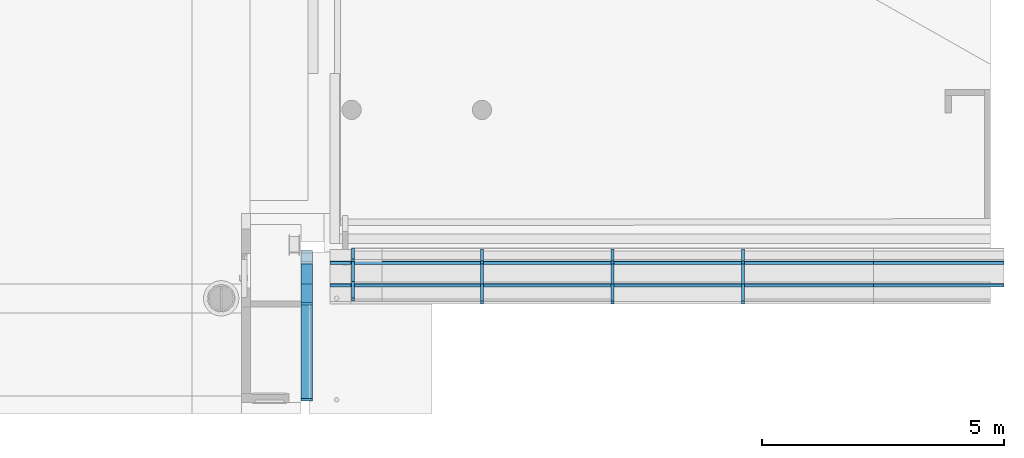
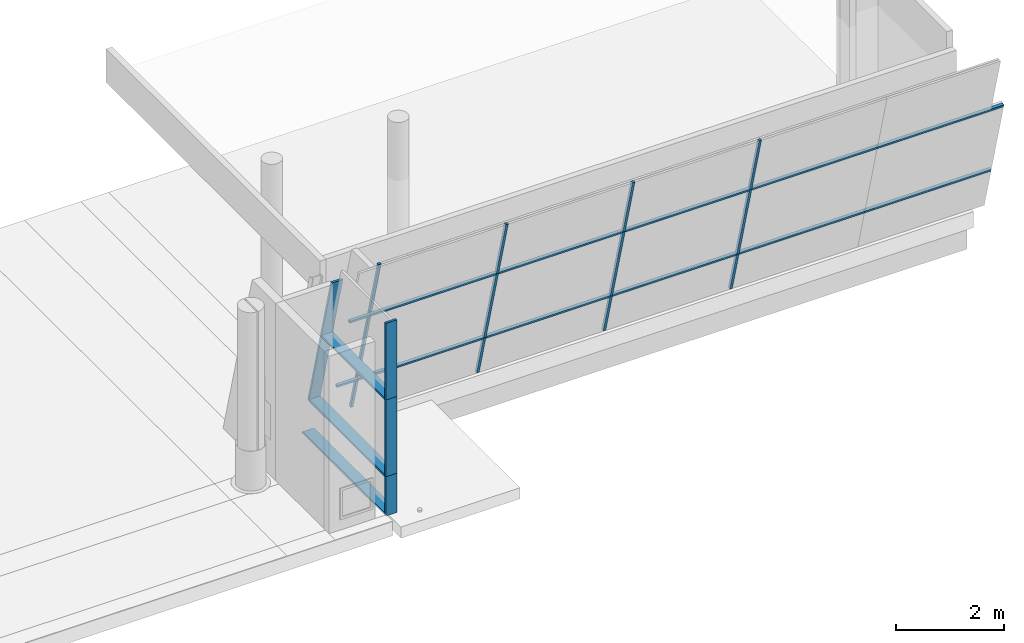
# One storey, part 1 of 10: 32 members, 3 elements without a shape of their own.
"""IFC2X3 building model written with IfcOpenShell, lengths in millimetres."""

from ifc_helpers import new_model, entity, si_unit, converted_unit, derived_unit, direction, frame, frame_2d, origin, origin_with_axes, place, context, subcontext, project, spatial, rectangle, extrude, faceted_brep, source, transform, mapped, material, type_object, element, aggregate, save


model = new_model("IFC2X3")

# Units and contexts
model_context = context("Model", 3, precision=0.01, world=origin(), true_north=direction((6.12303176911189e-17, 1.0)))
plan_context = context("Plan", 3, precision=1e-05, world=origin_with_axes())
body_context = subcontext(model_context, "Body", "Model", "MODEL_VIEW")
ifc_project = project(units=[converted_unit("PLANEANGLEUNIT", "DEGREE", entity("IfcPositiveLengthMeasure", 0.0174532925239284), si_unit("PLANEANGLEUNIT", "RADIAN"), dimensions=[0, 0, 0, 0, 0, 0, 0]), si_unit("AREAUNIT", "SQUARE_METRE"), si_unit("LENGTHUNIT", "METRE", prefix="MILLI"), si_unit("MASSUNIT", "GRAM", prefix="KILO"), si_unit("POWERUNIT", "WATT"), si_unit("PRESSUREUNIT", "PASCAL"), si_unit("FORCEUNIT", "NEWTON", prefix="KILO"), si_unit("ELECTRICVOLTAGEUNIT", "VOLT"), si_unit("ELECTRICCURRENTUNIT", "AMPERE"), si_unit("THERMODYNAMICTEMPERATUREUNIT", "DEGREE_CELSIUS"), si_unit("TIMEUNIT", "SECOND"), si_unit("VOLUMEUNIT", "CUBIC_METRE"), derived_unit("LINEARVELOCITYUNIT", [(si_unit("LENGTHUNIT", "METRE"), 1), (si_unit("TIMEUNIT", "SECOND"), -1)]), derived_unit("VOLUMETRICFLOWRATEUNIT", [(si_unit("VOLUMEUNIT", "CUBIC_METRE"), 1), (si_unit("TIMEUNIT", "SECOND"), -1)]), derived_unit("THERMALTRANSMITTANCEUNIT", [(si_unit("POWERUNIT", "WATT"), 1), (si_unit("THERMODYNAMICTEMPERATUREUNIT", "KELVIN"), -1), (si_unit("AREAUNIT", "SQUARE_METRE"), -1)]), derived_unit("SOUNDPRESSUREUNIT", [(si_unit("PRESSUREUNIT", "PASCAL"), 1)])], contexts=[model_context, plan_context])

# Site, building, storey
site_placement = place(None, frame((2314154.5009392, 1029894.10887124, 0.0), z_axis=(0.0, 0.0, 1.0), x_axis=(1.0, 0.0, 0.0)))
site = spatial("IfcSite", under=ifc_project, at=site_placement, Name="Default", CompositionType="ELEMENT")
building_placement = place(site_placement, origin_with_axes())
building = spatial("IfcBuilding", under=site, at=building_placement, CompositionType="ELEMENT")
storey_placement = place(building_placement, frame((0.0, 0.0, 9320.0), z_axis=(0.0, 0.0, 1.0), x_axis=(1.0, 0.0, 0.0)))
storey = spatial("IfcBuildingStorey", under=building, at=storey_placement, Name="H01 Hovedetasje", CompositionType="ELEMENT", Elevation=9320.0)

# Curtain wall, members
curtain_wall_type_1 = type_object("IfcCurtainWallType", Name="Curtain System:1500 x 3000", PredefinedType="NOTDEFINED")
curtain_wall_1_placement = place(storey_placement, frame((0.0, 0.0, -9320.0), z_axis=(0.0, 0.0, 1.0), x_axis=(1.0, 0.0, 0.0)))
curtain_wall_1 = element("IfcCurtainWall", 1, at=curtain_wall_1_placement, inside=storey, type_object=curtain_wall_type_1, Name="Curtain System:1500 x 3000", ObjectType="Curtain System:1500 x 3000")
ifc_material = material(Name="T2_Metal_Aluminium")
member_type_1 = type_object("IfcMemberType", Name="Rectangular Mullion:Værnes 50 x 56", PredefinedType="MULLION", material=ifc_material)
shared_shape_1 = source(origin(), body_context, "Body", "SweptSolid", [
    extrude(rectangle(XDim=59.9999999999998, YDim=55.9999999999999, at=frame_2d((8.70414851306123e-14, -5.15143483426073e-14), x_axis=(1.0, 0.0))), frame((0.0, 0.0, -2644.0), z_axis=(0.0, 0.0, 1.0), x_axis=(0.0, 1.0, 0.0)), (0.0, 0.0, 1.0), 2644.00000000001),
])
member_1_placement = place(curtain_wall_1_placement, frame((112132.333947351, -39210.1240676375, 10266.0610403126), z_axis=(1.0, 0.0, 0.0), x_axis=(0.0, -0.260890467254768, 0.965368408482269)))
member_1 = element("IfcMember", 2, at=member_1_placement, type_object=member_type_1, material=ifc_material, Name="Rectangular Mullion:Værnes 50 x 56", ObjectType="Rectangular Mullion:Værnes 50 x 56", context=body_context, shape_type="MappedRepresentation", body=[
    mapped(shared_shape_1, transform((0.0, 0.0, 0.0), scale=1.0)),
])
member_2_placement = place(curtain_wall_1_placement, frame((109432.333947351, -39210.1240676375, 10266.0610403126), z_axis=(1.0, 0.0, 0.0), x_axis=(0.0, -0.260890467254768, 0.965368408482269)))
member_2 = element("IfcMember", 3, at=member_2_placement, type_object=member_type_1, material=ifc_material, Name="Rectangular Mullion:Værnes 50 x 56", ObjectType="Rectangular Mullion:Værnes 50 x 56", context=body_context, shape_type="MappedRepresentation", body=[
    mapped(shared_shape_1, transform((0.0, 0.0, 0.0), scale=1.0)),
])
member_3_placement = place(curtain_wall_1_placement, frame((112132.333947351, -39678.4224563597, 11998.8973335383), z_axis=(1.0, 0.0, 0.0), x_axis=(0.0, -0.260890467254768, 0.965368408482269)))
member_3 = element("IfcMember", 4, at=member_3_placement, type_object=member_type_1, material=ifc_material, Name="Rectangular Mullion:Værnes 50 x 56", ObjectType="Rectangular Mullion:Værnes 50 x 56", context=body_context, shape_type="MappedRepresentation", body=[
    mapped(shared_shape_1, transform((0.0, 0.0, 0.0), scale=1.0)),
])
member_4_placement = place(curtain_wall_1_placement, frame((109432.333947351, -39678.4224563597, 11998.8973335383), z_axis=(1.0, 0.0, 0.0), x_axis=(0.0, -0.260890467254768, 0.965368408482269)))
member_4 = element("IfcMember", 5, at=member_4_placement, type_object=member_type_1, material=ifc_material, Name="Rectangular Mullion:Værnes 50 x 56", ObjectType="Rectangular Mullion:Værnes 50 x 56", context=body_context, shape_type="MappedRepresentation", body=[
    mapped(shared_shape_1, transform((0.0, 0.0, 0.0), scale=1.0)),
])
member_type_2 = type_object("IfcMemberType", Name="Rectangular Mullion:Værnes 50 x 56", PredefinedType="MULLION", material=ifc_material)
shared_shape_2 = source(origin(), body_context, "Body", "SweptSolid", [
    extrude(rectangle(XDim=59.9999999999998, YDim=55.9999999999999, at=frame_2d((8.70414851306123e-14, -5.15143483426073e-14), x_axis=(1.0, 0.0))), frame((0.0, 0.0, -2700.0), z_axis=(0.0, 0.0, 1.0), x_axis=(0.0, 1.0, 0.0)), (0.0, 0.0, 1.0), 2699.99999999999),
])
member_5_placement = place(curtain_wall_1_placement, frame((117560.333947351, -39210.1240676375, 10266.0610403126), z_axis=(1.0, 0.0, 0.0), x_axis=(0.0, -0.260890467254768, 0.965368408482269)))
member_5 = element("IfcMember", 6, at=member_5_placement, type_object=member_type_2, material=ifc_material, Name="Rectangular Mullion:Værnes 50 x 56", ObjectType="Rectangular Mullion:Værnes 50 x 56", context=body_context, shape_type="MappedRepresentation", body=[
    mapped(shared_shape_2, transform((0.0, 0.0, 0.0), scale=1.0)),
])
member_6_placement = place(curtain_wall_1_placement, frame((117560.333947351, -39678.4224563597, 11998.8973335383), z_axis=(1.0, 0.0, 0.0), x_axis=(0.0, -0.260890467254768, 0.965368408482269)))
member_6 = element("IfcMember", 7, at=member_6_placement, type_object=member_type_2, material=ifc_material, Name="Rectangular Mullion:Værnes 50 x 56", ObjectType="Rectangular Mullion:Værnes 50 x 56", context=body_context, shape_type="MappedRepresentation", body=[
    mapped(shared_shape_2, transform((0.0, 0.0, 0.0), scale=1.0)),
])
member_type_3 = type_object("IfcMemberType", Name="Rectangular Mullion:Værnes 50 x 56", PredefinedType="MULLION", material=ifc_material)
shared_shape_3 = source(origin(), body_context, "Body", "SweptSolid", [
    extrude(rectangle(XDim=59.9999999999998, YDim=55.9999999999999, at=frame_2d((8.70414851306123e-14, -5.15143483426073e-14), x_axis=(1.0, 0.0))), frame((0.0, 0.0, -2672.0), z_axis=(0.0, 0.0, 1.0), x_axis=(0.0, 1.0, 0.0)), (0.0, 0.0, 1.0), 2671.99999999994),
])
member_7_placement = place(curtain_wall_1_placement, frame((114860.333947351, -39210.1240676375, 10266.0610403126), z_axis=(1.0, 0.0, 0.0), x_axis=(0.0, -0.260890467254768, 0.965368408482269)))
member_7 = element("IfcMember", 8, at=member_7_placement, type_object=member_type_3, material=ifc_material, Name="Rectangular Mullion:Værnes 50 x 56", ObjectType="Rectangular Mullion:Værnes 50 x 56", context=body_context, shape_type="MappedRepresentation", body=[
    mapped(shared_shape_3, transform((0.0, 0.0, 0.0), scale=1.0)),
])
member_8_placement = place(curtain_wall_1_placement, frame((114860.333947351, -39678.4224563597, 11998.8973335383), z_axis=(1.0, 0.0, 0.0), x_axis=(0.0, -0.260890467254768, 0.965368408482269)))
member_8 = element("IfcMember", 9, at=member_8_placement, type_object=member_type_3, material=ifc_material, Name="Rectangular Mullion:Værnes 50 x 56", ObjectType="Rectangular Mullion:Værnes 50 x 56", context=body_context, shape_type="MappedRepresentation", body=[
    mapped(shared_shape_3, transform((0.0, 0.0, 0.0), scale=1.0)),
])
member_type_4 = type_object("IfcMemberType", Name="Rectangular Mullion:Værnes 50 x 56", PredefinedType="MULLION", material=ifc_material)
shared_shape_4 = source(origin(), body_context, "Body", "SweptSolid", [
    extrude(rectangle(XDim=59.9999999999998, YDim=55.9999999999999, at=frame_2d((8.70414851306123e-14, -5.15143483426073e-14), x_axis=(1.0, 0.0))), frame((0.0, 0.0, -2681.7329778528), z_axis=(0.0, 0.0, 1.0), x_axis=(0.0, 1.0, 0.0)), (0.0, 0.0, 1.0), 2681.73297785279),
])
member_9_placement = place(curtain_wall_1_placement, frame((106732.333947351, -39210.1240676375, 10266.0610403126), z_axis=(1.0, 0.0, 0.0), x_axis=(0.0, -0.260890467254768, 0.965368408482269)))
member_9 = element("IfcMember", 10, at=member_9_placement, type_object=member_type_4, material=ifc_material, Name="Rectangular Mullion:Værnes 50 x 56", ObjectType="Rectangular Mullion:Værnes 50 x 56", context=body_context, shape_type="MappedRepresentation", body=[
    mapped(shared_shape_4, transform((0.0, 0.0, 0.0), scale=1.0)),
])
member_10_placement = place(curtain_wall_1_placement, frame((106732.333947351, -39678.4224563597, 11998.8973335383), z_axis=(1.0, 0.0, 0.0), x_axis=(0.0, -0.260890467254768, 0.965368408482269)))
member_10 = element("IfcMember", 11, at=member_10_placement, type_object=member_type_4, material=ifc_material, Name="Rectangular Mullion:Værnes 50 x 56", ObjectType="Rectangular Mullion:Værnes 50 x 56", context=body_context, shape_type="MappedRepresentation", body=[
    mapped(shared_shape_4, transform((0.0, 0.0, 0.0), scale=1.0)),
])
member_type_5 = type_object("IfcMemberType", Name="Rectangular Mullion:Værnes 50 x 56", PredefinedType="MULLION", material=ifc_material)
shared_shape_5 = source(origin(), body_context, "Body", "SweptSolid", [
    extrude(rectangle(XDim=59.9999999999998, YDim=55.9999999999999, at=frame_2d((8.70414851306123e-14, -5.15143483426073e-14), x_axis=(1.0, 0.0))), frame((0.0, 0.0, -440.267022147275), z_axis=(0.0, 0.0, 1.0), x_axis=(0.0, 1.0, 0.0)), (0.0, 0.0, 1.0), 440.267022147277),
])
member_11_placement = place(curtain_wall_1_placement, frame((104050.600969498, -39210.1240676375, 10266.0610403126), z_axis=(1.0, 0.0, 0.0), x_axis=(0.0, -0.260890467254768, 0.965368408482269)))
member_11 = element("IfcMember", 12, at=member_11_placement, type_object=member_type_5, material=ifc_material, Name="Rectangular Mullion:Værnes 50 x 56", ObjectType="Rectangular Mullion:Værnes 50 x 56", context=body_context, shape_type="MappedRepresentation", body=[
    mapped(shared_shape_5, transform((0.0, 0.0, 0.0), scale=1.0)),
])
member_12_placement = place(curtain_wall_1_placement, frame((104050.600969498, -39678.4224563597, 11998.8973335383), z_axis=(1.0, 0.0, 0.0), x_axis=(0.0, -0.260890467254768, 0.965368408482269)))
member_12 = element("IfcMember", 13, at=member_12_placement, type_object=member_type_5, material=ifc_material, Name="Rectangular Mullion:Værnes 50 x 56", ObjectType="Rectangular Mullion:Værnes 50 x 56", context=body_context, shape_type="MappedRepresentation", body=[
    mapped(shared_shape_5, transform((0.0, 0.0, 0.0), scale=1.0)),
])
member_type_6 = type_object("IfcMemberType", Name="Rectangular Mullion:Værnes 50 x 56", PredefinedType="MULLION", material=ifc_material)
shared_shape_6 = source(origin(), body_context, "Body", "SweptSolid", [
    extrude(rectangle(XDim=55.9999999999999, YDim=59.9999999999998, at=frame_2d((-5.15143483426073e-14, 8.34887714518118e-14), x_axis=(1.0, 0.0))), frame((0.0, 0.0, -980.0)), (0.0, 0.0, 1.0), 979.999999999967),
])
member_13_placement = place(curtain_wall_1_placement, frame((106760.333947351, -39210.1240676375, 10266.0610403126), z_axis=(0.0, -0.260890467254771, 0.965368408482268), x_axis=(-1.0, 0.0, 0.0)))
member_13 = element("IfcMember", 14, at=member_13_placement, type_object=member_type_6, material=ifc_material, Name="Rectangular Mullion:Værnes 50 x 56", ObjectType="Rectangular Mullion:Værnes 50 x 56", context=body_context, shape_type="MappedRepresentation", body=[
    mapped(shared_shape_6, transform((0.0, 0.0, 0.0), scale=1.0)),
])
member_14_placement = place(curtain_wall_1_placement, frame((109460.333947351, -39210.1240676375, 10266.0610403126), z_axis=(0.0, -0.260890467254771, 0.965368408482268), x_axis=(-1.0, 0.0, 0.0)))
member_14 = element("IfcMember", 15, at=member_14_placement, type_object=member_type_6, material=ifc_material, Name="Rectangular Mullion:Værnes 50 x 56", ObjectType="Rectangular Mullion:Værnes 50 x 56", context=body_context, shape_type="MappedRepresentation", body=[
    mapped(shared_shape_6, transform((0.0, 0.0, 0.0), scale=1.0)),
])
member_15_placement = place(curtain_wall_1_placement, frame((112160.333947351, -39210.1240676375, 10266.0610403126), z_axis=(0.0, -0.260890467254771, 0.965368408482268), x_axis=(-1.0, 0.0, 0.0)))
member_15 = element("IfcMember", 16, at=member_15_placement, type_object=member_type_6, material=ifc_material, Name="Rectangular Mullion:Værnes 50 x 56", ObjectType="Rectangular Mullion:Værnes 50 x 56", context=body_context, shape_type="MappedRepresentation", body=[
    mapped(shared_shape_6, transform((0.0, 0.0, 0.0), scale=1.0)),
])
member_type_7 = type_object("IfcMemberType", Name="Rectangular Mullion:Værnes 50 x 56", PredefinedType="MULLION", material=ifc_material)
shared_shape_7 = source(origin(), body_context, "Body", "SweptSolid", [
    extrude(rectangle(XDim=55.9999999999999, YDim=59.9999999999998, at=frame_2d((-5.15143483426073e-14, 8.34887714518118e-14), x_axis=(1.0, 0.0))), frame((0.0, 0.0, -1795.0)), (0.0, 0.0, 1.0), 1795.0),
])
member_16_placement = place(curtain_wall_1_placement, frame((106760.333947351, -39678.4224563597, 11998.8973335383), z_axis=(0.0, -0.260890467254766, 0.965368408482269), x_axis=(-1.0, 0.0, 0.0)))
member_16 = element("IfcMember", 17, at=member_16_placement, type_object=member_type_7, material=ifc_material, Name="Rectangular Mullion:Værnes 50 x 56", ObjectType="Rectangular Mullion:Værnes 50 x 56", context=body_context, shape_type="MappedRepresentation", body=[
    mapped(shared_shape_7, transform((0.0, 0.0, 0.0), scale=1.0)),
])
member_17_placement = place(curtain_wall_1_placement, frame((109460.333947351, -39678.4224563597, 11998.8973335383), z_axis=(0.0, -0.260890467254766, 0.965368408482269), x_axis=(-1.0, 0.0, 0.0)))
member_17 = element("IfcMember", 18, at=member_17_placement, type_object=member_type_7, material=ifc_material, Name="Rectangular Mullion:Værnes 50 x 56", ObjectType="Rectangular Mullion:Værnes 50 x 56", context=body_context, shape_type="MappedRepresentation", body=[
    mapped(shared_shape_7, transform((0.0, 0.0, 0.0), scale=1.0)),
])
member_18_placement = place(curtain_wall_1_placement, frame((112160.333947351, -39678.4224563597, 11998.8973335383), z_axis=(0.0, -0.260890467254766, 0.965368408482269), x_axis=(-1.0, 0.0, 0.0)))
member_18 = element("IfcMember", 19, at=member_18_placement, type_object=member_type_7, material=ifc_material, Name="Rectangular Mullion:Værnes 50 x 56", ObjectType="Rectangular Mullion:Værnes 50 x 56", context=body_context, shape_type="MappedRepresentation", body=[
    mapped(shared_shape_7, transform((0.0, 0.0, 0.0), scale=1.0)),
])

curtain_wall_type_2 = type_object("IfcCurtainWallType", Name="Curtain Wall:V_TA Curtain Wall Solid panels", PredefinedType="NOTDEFINED")
curtain_wall_2_placement = place(storey_placement, frame((0.0, 0.0, -9320.0), z_axis=(0.0, 0.0, 1.0), x_axis=(1.0, 0.0, 0.0)))
curtain_wall_2 = element("IfcCurtainWall", 20, at=curtain_wall_2_placement, inside=storey, type_object=curtain_wall_type_2, Name="Curtain Wall:V_TA Curtain Wall Solid panels", ObjectType="Curtain Wall:V_TA Curtain Wall Solid panels")
member_type_8 = type_object("IfcMemberType", Name="Rectangular Mullion:Værnes 50 X 150 Fasade TA", PredefinedType="MULLION", material=ifc_material)
shared_shape_8 = source(origin(), body_context, "Body", "Brep", [
    faceted_brep([(-25.0, -26.4999999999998, -14262.0508573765), (-25.0, 62.4655101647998, -14262.0508573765), (0.0, 62.4655101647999, -14262.0508573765), (25.0, 62.4655101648, -14262.0508573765), (25.0, -26.4999999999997, -14262.0508573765), (25.0, -176.5, -14262.0508573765), (-25.0, -176.5, -14262.0508573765), (-25.0, -176.5, -11932.0644237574), (-25.0, -26.4999999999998, -11932.0644237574), (25.0, -176.5, -11945.4646013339), (-12.9434016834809, -176.5, -11935.2956349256), (25.0, -26.4999999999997, -11945.4646013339), (25.0, 62.4655101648, -11945.4646013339), (0.0, 62.4655101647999, -11938.7645125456), (-25.0, 62.4655101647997, -11932.0644237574), (-12.9434016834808, 62.4655101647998, -11935.2956349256)], [[[0, 1, 2, 3, 4, 5, 6]], [[7, 8, 0, 6]], [[9, 10, 7, 6, 5]], [[11, 9, 5, 4]], [[12, 11, 4, 3]], [[13, 12, 3, 2]], [[14, 15, 13, 2, 1]], [[8, 14, 1, 0]], [[8, 7, 10, 15, 14]], [[10, 9, 11, 12, 13, 15]]]),
])
member_19_placement = place(curtain_wall_2_placement, frame((103188.585595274, -27762.2103038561, 11887.0), z_axis=(0.0, 1.0, 0.0), x_axis=(0.0, 0.0, 1.0)))
member_19 = element("IfcMember", 21, at=member_19_placement, type_object=member_type_8, material=ifc_material, Name="Rectangular Mullion:Værnes 50 X 150 Fasade TA", ObjectType="Rectangular Mullion:Værnes 50 X 150 Fasade TA", context=body_context, shape_type="MappedRepresentation", body=[
    mapped(shared_shape_8, transform((0.0, 0.0, 0.0), scale=1.0)),
])
member_type_9 = type_object("IfcMemberType", Name="Rectangular Mullion:Værnes 50 X 150 Fasade TA", PredefinedType="MULLION", material=ifc_material)
shared_shape_9 = source(origin(), body_context, "Body", "Brep", [
    faceted_brep([(-25.0, -26.4999999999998, -12996.4289979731), (-25.0, 62.4655101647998, -12996.4289979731), (0.0, 62.4655101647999, -12996.4289979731), (25.0, 62.4655101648, -12996.4289979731), (25.0, -26.4999999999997, -12996.4289979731), (25.0, -176.5, -12996.4289979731), (-25.0, -176.5, -12996.4289979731), (-25.0, -176.5, -10203.0644237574), (-25.0, -26.4999999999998, -10203.0644237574), (25.0, -176.5, -10216.4646013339), (-12.9434016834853, -176.5, -10206.2956349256), (25.0, -26.4999999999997, -10216.4646013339), (25.0, 62.4655101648, -10216.4646013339), (0.0, 62.4655101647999, -10209.7645125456), (-25.0, 62.4655101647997, -10203.0644237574), (-12.9434016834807, 62.4655101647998, -10206.2956349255)], [[[0, 1, 2, 3, 4, 5, 6]], [[7, 8, 0, 6]], [[9, 10, 7, 6, 5]], [[11, 9, 5, 4]], [[12, 11, 4, 3]], [[13, 12, 3, 2]], [[14, 15, 13, 2, 1]], [[8, 14, 1, 0]], [[8, 7, 10, 15, 14]], [[10, 9, 11, 12, 13, 15]]]),
])
member_20_placement = place(curtain_wall_2_placement, frame((103188.585595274, -29027.8321632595, 10158.0), z_axis=(0.0, 1.0, 0.0), x_axis=(0.0, 0.0, 1.0)))
member_20 = element("IfcMember", 22, at=member_20_placement, type_object=member_type_9, material=ifc_material, Name="Rectangular Mullion:Værnes 50 X 150 Fasade TA", ObjectType="Rectangular Mullion:Værnes 50 X 150 Fasade TA", context=body_context, shape_type="MappedRepresentation", body=[
    mapped(shared_shape_9, transform((0.0, 0.0, 0.0), scale=1.0)),
])
member_type_10 = type_object("IfcMemberType", Name="Rectangular Mullion:Værnes 50 X 150 Fasade TA", PredefinedType="MULLION", material=ifc_material)
shared_shape_10 = source(origin(), body_context, "Body", "SweptSolid", [
    extrude(rectangle(XDim=238.9655101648, YDim=50.0000000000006, at=frame_2d((25.7881778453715, -1.47437617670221e-13), x_axis=(1.0, 0.0))), frame((0.0, -31.2290670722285, -1729.0), z_axis=(0.0, 0.0, 1.0), x_axis=(0.0, -1.0, 0.0)), (0.0, 0.0, 1.0), 1729.0),
])
member_21_placement = place(curtain_wall_2_placement, frame((103188.585595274, -42049.2611612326, 10158.0), z_axis=(0.0, 0.0, -1.0), x_axis=(0.0, 1.0, 0.0)))
member_21 = element("IfcMember", 23, at=member_21_placement, type_object=member_type_10, material=ifc_material, Name="Rectangular Mullion:Værnes 50 X 150 Fasade TA", ObjectType="Rectangular Mullion:Værnes 50 X 150 Fasade TA", context=body_context, shape_type="MappedRepresentation", body=[
    mapped(shared_shape_10, transform((0.0, 0.0, 0.0), scale=1.0)),
])
member_type_11 = type_object("IfcMemberType", Name="Rectangular Mullion:Værnes 50 X 150 Fasade TA", PredefinedType="MULLION", material=ifc_material)
shared_shape_11 = source(origin(), body_context, "Body", "SweptSolid", [
    extrude(rectangle(XDim=238.9655101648, YDim=50.0000000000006, at=frame_2d((25.7881778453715, -1.47437617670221e-13), x_axis=(1.0, 0.0))), frame((0.0, -31.2290670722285, -1729.18796839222), z_axis=(0.0, 0.0, 1.0), x_axis=(0.0, -1.0, 0.0)), (0.0, 0.0, 1.0), 1729.18796839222),
])
member_22_placement = place(curtain_wall_2_placement, frame((103188.585595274, -42049.2611612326, 11887.0), z_axis=(0.0, 0.0, -1.0), x_axis=(0.0, 1.0, 0.0)))
member_22 = element("IfcMember", 24, at=member_22_placement, type_object=member_type_11, material=ifc_material, Name="Rectangular Mullion:Værnes 50 X 150 Fasade TA", ObjectType="Rectangular Mullion:Værnes 50 X 150 Fasade TA", context=body_context, shape_type="MappedRepresentation", body=[
    mapped(shared_shape_11, transform((0.0, 0.0, 0.0), scale=1.0)),
])
member_type_12 = type_object("IfcMemberType", Name="Rectangular Mullion:Værnes 50 X 150 Fasade TA", PredefinedType="MULLION", material=ifc_material)
shared_shape_12 = source(origin(), body_context, "Body", "SweptSolid", [
    extrude(rectangle(XDim=238.9655101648, YDim=50.0000000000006, at=frame_2d((25.7881778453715, -1.47437617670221e-13), x_axis=(1.0, 0.0))), frame((0.0, -31.2290670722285, -888.0), z_axis=(0.0, 0.0, 1.0), x_axis=(0.0, -1.0, 0.0)), (0.0, 0.0, 1.0), 888.000000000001),
])
member_23_placement = place(curtain_wall_2_placement, frame((103188.585595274, -42049.2611612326, 9270.0), z_axis=(0.0, 0.0, -1.0), x_axis=(0.0, 1.0, 0.0)))
member_23 = element("IfcMember", 25, at=member_23_placement, type_object=member_type_12, material=ifc_material, Name="Rectangular Mullion:Værnes 50 X 150 Fasade TA", ObjectType="Rectangular Mullion:Værnes 50 X 150 Fasade TA", context=body_context, shape_type="MappedRepresentation", body=[
    mapped(shared_shape_12, transform((0.0, 0.0, 0.0), scale=1.0)),
])
member_type_13 = type_object("IfcMemberType", Name="Rectangular Mullion:Værnes 50 X 150 Fasade TA", PredefinedType="MULLION", material=ifc_material)
shared_shape_13 = source(origin(), body_context, "Body", "Brep", [
    faceted_brep([(0.0, -26.4999999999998, 0.0), (0.0, 62.4655101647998, 0.0), (-25.0, 62.4655101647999, 0.0), (-50.0, 62.4655101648, 0.0), (-50.0, -26.4999999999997, 0.0), (-50.0, -176.5, 0.0), (0.0, -176.5, 0.0), (0.0, -26.4999999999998, -3076.41615173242), (0.0, 62.4655101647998, -3076.41615173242), (-25.0, 62.4655101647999, -3043.83380667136), (-50.0, 62.4655101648, -3011.2514616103), (-50.0, -26.4999999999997, -3011.25146161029), (-50.0, -176.5, -3011.25146161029), (0.0, -176.5, -3076.41615173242)], [[[0, 1, 2, 3, 4, 5, 6]], [[1, 0, 7, 8]], [[2, 1, 8, 9]], [[3, 2, 9, 10]], [[4, 3, 10, 11]], [[5, 4, 11, 12]], [[6, 5, 12, 13]], [[0, 6, 13, 7]], [[7, 13, 12, 11, 10, 9, 8]]]),
])
member_24_placement = place(curtain_wall_2_placement, frame((103188.585595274, -42024.2611612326, 9270.0), z_axis=(0.0, -1.0, 0.0), x_axis=(0.0, 0.0, -1.0)))
member_24 = element("IfcMember", 26, at=member_24_placement, type_object=member_type_13, material=ifc_material, Name="Rectangular Mullion:Værnes 50 X 150 Fasade TA", ObjectType="Rectangular Mullion:Værnes 50 X 150 Fasade TA", context=body_context, shape_type="MappedRepresentation", body=[
    mapped(shared_shape_13, transform((0.0, 0.0, 0.0), scale=1.0)),
])
member_type_14 = type_object("IfcMemberType", Name="Rectangular Mullion:Værnes 50 X 150 Fasade TA", PredefinedType="MULLION", material=ifc_material)
shared_shape_14 = source(origin(), body_context, "Body", "SweptSolid", [
    extrude(rectangle(XDim=238.9655101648, YDim=50.0000000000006, at=frame_2d((25.7881778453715, -1.56319401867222e-13), x_axis=(1.0, 0.0))), frame((-25.0, -31.2290670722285, -1790.01684382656), z_axis=(0.0, 0.0, 1.0), x_axis=(0.0, -1.0, 0.0)), (0.0, 0.0, 1.0), 1790.01684382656),
])
member_25_placement = place(curtain_wall_2_placement, frame((103188.585595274, -39185.8321632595, 10158.0), z_axis=(0.0, 0.258819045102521, -0.965925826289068), x_axis=(0.0, 0.965925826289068, 0.258819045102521)))
member_25 = element("IfcMember", 27, at=member_25_placement, type_object=member_type_14, material=ifc_material, Name="Rectangular Mullion:Værnes 50 X 150 Fasade TA", ObjectType="Rectangular Mullion:Værnes 50 X 150 Fasade TA", context=body_context, shape_type="MappedRepresentation", body=[
    mapped(shared_shape_14, transform((0.0, 0.0, 0.0), scale=1.0)),
])

curtain_wall_type_3 = type_object("IfcCurtainWallType", Name="Curtain System:2700 x 1790", PredefinedType="NOTDEFINED")
curtain_wall_3_placement = place(storey_placement, frame((0.0, 0.0, -9320.0), z_axis=(0.0, 0.0, 1.0), x_axis=(1.0, 0.0, 0.0)))
curtain_wall_3 = element("IfcCurtainWall", 28, at=curtain_wall_3_placement, inside=storey, type_object=curtain_wall_type_3, Name="Curtain System:2700 x 1790", ObjectType="Curtain System:2700 x 1790")
member_type_15 = type_object("IfcMemberType", Name="Rectangular Mullion:Værnes 50 x 56", PredefinedType="MULLION", material=ifc_material)
shared_shape_15 = source(origin(), body_context, "Body", "SweptSolid", [
    extrude(rectangle(XDim=55.9999999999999, YDim=59.9999999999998, at=frame_2d((-4.9737991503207e-14, 8.34887714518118e-14), x_axis=(1.0, 0.0))), frame((-28.0, 0.0, -1791.02779210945)), (0.0, 0.0, 1.0), 1791.02779210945),
])
member_26_placement = place(curtain_wall_3_placement, frame((104059.72877409, -39630.5733004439, 12048.1765336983), z_axis=(0.0, -0.26089046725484, 0.965368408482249), x_axis=(-1.0, 0.0, 0.0)))
member_26 = element("IfcMember", 29, at=member_26_placement, type_object=member_type_15, material=ifc_material, Name="Rectangular Mullion:Værnes 50 x 56", ObjectType="Rectangular Mullion:Værnes 50 x 56", context=body_context, shape_type="MappedRepresentation", body=[
    mapped(shared_shape_15, transform((0.0, 0.0, 0.0), scale=1.0)),
])
member_type_16 = type_object("IfcMemberType", Name="Rectangular Mullion:Værnes 50 x 56", PredefinedType="MULLION", material=ifc_material)
shared_shape_16 = source(origin(), body_context, "Body", "SweptSolid", [
    extrude(rectangle(XDim=55.9999999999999, YDim=59.9999999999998, at=frame_2d((-4.9737991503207e-14, 8.34887714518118e-14), x_axis=(1.0, 0.0))), frame((-28.0, 0.0, -880.0)), (0.0, 0.0, 1.0), 880.000000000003),
])
member_27_placement = place(curtain_wall_3_placement, frame((104059.72877409, -39163.3112228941, 10319.1748844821), z_axis=(0.0, -0.260890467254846, 0.965368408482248), x_axis=(-1.0, 0.0, 0.0)))
member_27 = element("IfcMember", 30, at=member_27_placement, type_object=member_type_16, material=ifc_material, Name="Rectangular Mullion:Værnes 50 x 56", ObjectType="Rectangular Mullion:Værnes 50 x 56", context=body_context, shape_type="MappedRepresentation", body=[
    mapped(shared_shape_16, transform((0.0, 0.0, 0.0), scale=1.0)),
])

# Member
member_type_17 = type_object("IfcMemberType", Name="Rectangular Mullion:Værnes 50 x 56", PredefinedType="MULLION", material=ifc_material)
member_28_placement = place(curtain_wall_1_placement, frame((106760.333947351, -40128.4585123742, 13664.1578381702), z_axis=(0.0, -0.260890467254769, 0.965368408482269), x_axis=(-1.0, 0.0, 0.0)))
member_28 = element("IfcMember", 31, at=member_28_placement, type_object=member_type_17, Name="Rectangular Mullion:Værnes 50 x 56", ObjectType="Rectangular Mullion:Værnes 50 x 56", context=body_context, shape_type="Brep", body=[
    faceted_brep([(-28.0, 30.0, -348.396654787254), (-28.0, -29.9999999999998, -364.611633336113), (-28.0, -29.9999999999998, -1725.0), (-28.0, 30.0, -1725.0), (27.9999999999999, -29.9999999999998, -364.611633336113), (27.9999999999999, -29.9999999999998, -1725.0), (27.9999999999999, 30.0, -348.396654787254), (27.9999999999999, 30.0, -1725.0)], [[[0, 1, 2, 3]], [[1, 4, 5, 2]], [[4, 6, 7, 5]], [[6, 0, 3, 7]], [[3, 2, 5, 7]], [[6, 4, 1, 0]]], orient=[[False], [False], [False], [False], [False], [False]]),
])

member_29_placement = place(curtain_wall_1_placement, frame((109460.333947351, -40128.4585123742, 13664.1578381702), z_axis=(0.0, -0.260890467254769, 0.965368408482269), x_axis=(-1.0, 0.0, 0.0)))
member_29 = element("IfcMember", 32, at=member_29_placement, type_object=member_type_17, Name="Rectangular Mullion:Værnes 50 x 56", ObjectType="Rectangular Mullion:Værnes 50 x 56", context=body_context, shape_type="Brep", body=[
    faceted_brep([(-28.0, 30.0, -348.396654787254), (-28.0, -29.9999999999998, -364.611633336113), (-28.0, -29.9999999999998, -1725.0), (-28.0, 30.0, -1725.0), (27.9999999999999, -29.9999999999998, -364.611633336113), (27.9999999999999, -29.9999999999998, -1725.0), (27.9999999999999, 30.0, -348.396654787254), (27.9999999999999, 30.0, -1725.0)], [[[0, 1, 2, 3]], [[1, 4, 5, 2]], [[4, 6, 7, 5]], [[6, 0, 3, 7]], [[3, 2, 5, 7]], [[6, 4, 1, 0]]], orient=[[False], [False], [False], [False], [False], [False]]),
])

member_30_placement = place(curtain_wall_1_placement, frame((112160.333947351, -40128.4585123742, 13664.1578381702), z_axis=(0.0, -0.260890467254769, 0.965368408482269), x_axis=(-1.0, 0.0, 0.0)))
member_30 = element("IfcMember", 33, at=member_30_placement, type_object=member_type_17, Name="Rectangular Mullion:Værnes 50 x 56", ObjectType="Rectangular Mullion:Værnes 50 x 56", context=body_context, shape_type="Brep", body=[
    faceted_brep([(-28.0, 30.0, -348.396654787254), (-28.0, -29.9999999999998, -364.611633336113), (-28.0, -29.9999999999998, -1725.0), (-28.0, 30.0, -1725.0), (27.9999999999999, -29.9999999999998, -364.611633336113), (27.9999999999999, -29.9999999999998, -1725.0), (27.9999999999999, 30.0, -348.396654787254), (27.9999999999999, 30.0, -1725.0)], [[[0, 1, 2, 3]], [[1, 4, 5, 2]], [[4, 6, 7, 5]], [[6, 0, 3, 7]], [[3, 2, 5, 7]], [[6, 4, 1, 0]]], orient=[[False], [False], [False], [False], [False], [False]]),
])

aggregate(curtain_wall_1, [member_1, member_5, member_7, member_2, member_9, member_11, member_8, member_3, member_6, member_4, member_10, member_12, member_13, member_16, member_14, member_17, member_15, member_18, member_28, member_29, member_30])

member_type_18 = type_object("IfcMemberType", Name="Rectangular Mullion:Værnes 50 X 150 Fasade TA", PredefinedType="MULLION", material=ifc_material)
member_31_placement = place(curtain_wall_2_placement, frame((103188.585595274, -39649.2103038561, 11887.0), z_axis=(0.0, 0.258819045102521, -0.965925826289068), x_axis=(0.0, 0.965925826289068, 0.258819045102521)))
member_31 = element("IfcMember", 34, at=member_31_placement, type_object=member_type_18, Name="Rectangular Mullion:Værnes 50 X 150 Fasade TA", ObjectType="Rectangular Mullion:Værnes 50 X 150 Fasade TA", context=body_context, shape_type="Brep", body=[
    faceted_brep([(-50.0000000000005, 62.4655101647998, -1496.94822614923), (1.66977542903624e-13, 62.4655101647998, -1483.55076652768), (1.66977542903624e-13, 62.4655101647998, -0.194601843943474), (-50.0000000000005, 62.4655101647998, -0.194601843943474), (-50.0000000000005, -176.5, -1496.94822614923), (-50.0000000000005, -176.5, -0.194601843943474), (1.66977542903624e-13, -176.5, -1483.55076652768), (1.66977542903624e-13, -176.5, -0.194601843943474)], [[[0, 1, 2, 3]], [[4, 0, 3, 5]], [[6, 4, 5, 7]], [[1, 6, 7, 2]], [[3, 2, 7, 5]], [[4, 6, 1, 0]]], orient=[[False], [False], [False], [False], [False], [False]]),
])

aggregate(curtain_wall_2, [member_19, member_20, member_21, member_22, member_23, member_24, member_25, member_31])

member_type_19 = type_object("IfcMemberType", Name="Rectangular Mullion:Værnes 50 x 56", PredefinedType="MULLION", material=ifc_material)
member_32_placement = place(curtain_wall_3_placement, frame((104059.72877409, -40097.5672368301, 13776.1859848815), z_axis=(0.0, -0.260890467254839, 0.96536840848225), x_axis=(-1.0, 0.0, 0.0)))
member_32 = element("IfcMember", 35, at=member_32_placement, type_object=member_type_19, Name="Rectangular Mullion:Værnes 50 x 56", ObjectType="Rectangular Mullion:Værnes 50 x 56", context=body_context, shape_type="Brep", body=[
    faceted_brep([(-56.0, 30.0, -464.443695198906), (-56.0, -29.9999999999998, -480.65867374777), (-56.0, -29.9999999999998, -1790.0), (-56.0, 30.0, -1790.0), (-9.9475983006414e-14, -29.9999999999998, -480.65867374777), (-9.9475983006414e-14, -29.9999999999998, -1790.0), (-9.9475983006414e-14, 30.0, -464.443695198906), (-9.9475983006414e-14, 30.0, -1790.0)], [[[0, 1, 2, 3]], [[1, 4, 5, 2]], [[4, 6, 7, 5]], [[6, 0, 3, 7]], [[3, 2, 5, 7]], [[6, 4, 1, 0]]], orient=[[False], [False], [False], [False], [False], [False]]),
])

aggregate(curtain_wall_3, [member_26, member_27, member_32])

save(model, "model.ifc")
